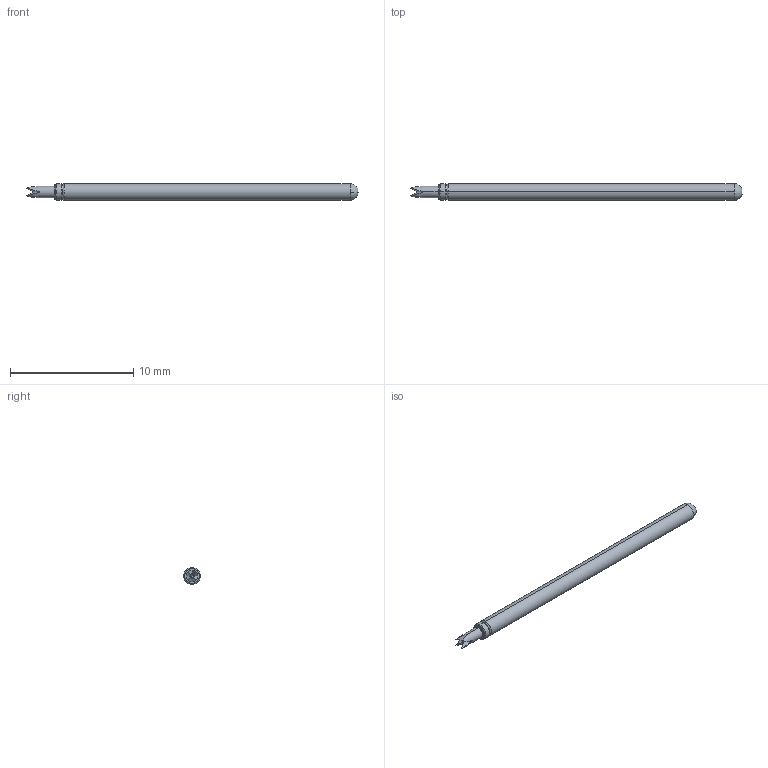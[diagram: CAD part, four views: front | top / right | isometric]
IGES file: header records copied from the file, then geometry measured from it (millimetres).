
Start section: SolidWorks IGES file using analytic representation for surfaces
Global section: file name: Z:\probe solid model mockups\Solidworks models\LTP-25\LTP-25L36 Full.IGS; native system: SolidWorks 2006 by SolidWorks Corporation; preprocessor: SolidWorks 2006 by SolidWorks Corporation; author: tsakatani; date: 071214.143259; units: inch
Bounding box: 26.92 x 1.37 x 1.37 mm (x, y, z)
Surface area: 114.3 mm2 (no closed solid volume)
Topology: 0 solids, 0 shells, 26 faces, 174 edges, 174 vertices
Faces by surface type: bspline 14, revolution 12
